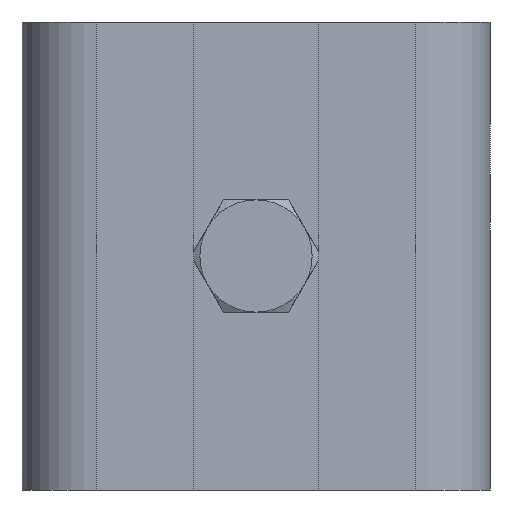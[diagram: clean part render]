
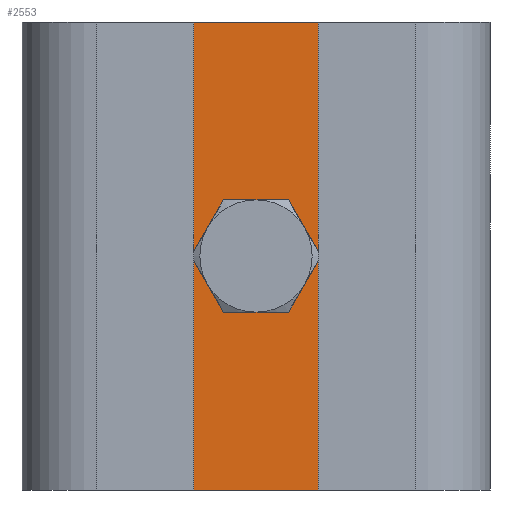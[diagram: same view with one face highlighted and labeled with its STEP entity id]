
A CAD part, front view. The second image highlights one B-rep face of the part: STEP entity #2553.
In plain terms, the highlighted planar face has unit normal (0, -1, 0).
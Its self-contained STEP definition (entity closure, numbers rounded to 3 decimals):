
#4 = FACE_BOUND ( 'NONE', #21595, .T. ) ;
#49 = ORIENTED_EDGE ( 'NONE', *, *, #17311, .T. ) ;
#102 = CARTESIAN_POINT ( 'NONE',  ( -32., -8., -100. ) ) ;
#440 = EDGE_LOOP ( 'NONE', ( #14580, #1533, #6198, #49 ) ) ;
#986 = VECTOR ( 'NONE', #3801, 1000. ) ;
#1533 = ORIENTED_EDGE ( 'NONE', *, *, #6086, .T. ) ;
#1590 = AXIS2_PLACEMENT_3D ( 'NONE', #5898, #5529, #13409 ) ;
#2553 = ADVANCED_FACE ( 'NONE', ( #4, #9368 ), #7387, .T. ) ;
#3801 = DIRECTION ( 'NONE',  ( 0., 0., -1. ) ) ;
#3883 = CARTESIAN_POINT ( 'NONE',  ( 0., -8., -58.5 ) ) ;
#4299 = VERTEX_POINT ( 'NONE', #102 ) ;
#4480 = EDGE_CURVE ( 'NONE', #12116, #7940, #6605, .T. ) ;
#5119 = CARTESIAN_POINT ( 'NONE',  ( 42., -8., 0. ) ) ;
#5277 = CARTESIAN_POINT ( 'NONE',  ( 0., -8., -50. ) ) ;
#5529 = DIRECTION ( 'NONE',  ( 0., -1., 0. ) ) ;
#5898 = CARTESIAN_POINT ( 'NONE',  ( 42., -8., -100. ) ) ;
#5927 = CARTESIAN_POINT ( 'NONE',  ( 32., -8., -100. ) ) ;
#6001 = LINE ( 'NONE', #19054, #986 ) ;
#6086 = EDGE_CURVE ( 'NONE', #7457, #7940, #10769, .T. ) ;
#6198 = ORIENTED_EDGE ( 'NONE', *, *, #4480, .F. ) ;
#6434 = DIRECTION ( 'NONE',  ( 0., 1., 0. ) ) ;
#6495 = CIRCLE ( 'NONE', #8083, 8.5 ) ;
#6605 = LINE ( 'NONE', #5119, #19092 ) ;
#7387 = PLANE ( 'NONE',  #1590 ) ;
#7457 = VERTEX_POINT ( 'NONE', #5927 ) ;
#7940 = VERTEX_POINT ( 'NONE', #8097 ) ;
#8083 = AXIS2_PLACEMENT_3D ( 'NONE', #5277, #24372, #12800 ) ;
#8097 = CARTESIAN_POINT ( 'NONE',  ( 32., -8., 0. ) ) ;
#9368 = FACE_OUTER_BOUND ( 'NONE', #440, .T. ) ;
#9587 = LINE ( 'NONE', #11796, #13678 ) ;
#10053 = AXIS2_PLACEMENT_3D ( 'NONE', #11874, #6434, #22950 ) ;
#10526 = DIRECTION ( 'NONE',  ( 0., 0., 1. ) ) ;
#10769 = LINE ( 'NONE', #12619, #10884 ) ;
#10884 = VECTOR ( 'NONE', #10526, 1000. ) ;
#11796 = CARTESIAN_POINT ( 'NONE',  ( 42., -8., -100. ) ) ;
#11874 = CARTESIAN_POINT ( 'NONE',  ( 0., -8., -50. ) ) ;
#12022 = VERTEX_POINT ( 'NONE', #3883 ) ;
#12116 = VERTEX_POINT ( 'NONE', #21823 ) ;
#12447 = CIRCLE ( 'NONE', #10053, 8.5 ) ;
#12619 = CARTESIAN_POINT ( 'NONE',  ( 32., -8., 0. ) ) ;
#12800 = DIRECTION ( 'NONE',  ( 1., 0., 0. ) ) ;
#12850 = CARTESIAN_POINT ( 'NONE',  ( 0., -8., -41.5 ) ) ;
#13409 = DIRECTION ( 'NONE',  ( 1., 0., 0. ) ) ;
#13519 = VERTEX_POINT ( 'NONE', #12850 ) ;
#13678 = VECTOR ( 'NONE', #19405, 1000. ) ;
#14580 = ORIENTED_EDGE ( 'NONE', *, *, #20657, .T. ) ;
#17206 = EDGE_CURVE ( 'NONE', #12022, #13519, #6495, .T. ) ;
#17311 = EDGE_CURVE ( 'NONE', #12116, #4299, #6001, .T. ) ;
#18438 = EDGE_CURVE ( 'NONE', #13519, #12022, #12447, .T. ) ;
#19054 = CARTESIAN_POINT ( 'NONE',  ( -32., -8., -100. ) ) ;
#19092 = VECTOR ( 'NONE', #19773, 1000. ) ;
#19405 = DIRECTION ( 'NONE',  ( 1., 0., 0. ) ) ;
#19773 = DIRECTION ( 'NONE',  ( 1., 0., 0. ) ) ;
#20083 = ORIENTED_EDGE ( 'NONE', *, *, #17206, .T. ) ;
#20239 = ORIENTED_EDGE ( 'NONE', *, *, #18438, .T. ) ;
#20657 = EDGE_CURVE ( 'NONE', #4299, #7457, #9587, .T. ) ;
#21595 = EDGE_LOOP ( 'NONE', ( #20239, #20083 ) ) ;
#21823 = CARTESIAN_POINT ( 'NONE',  ( -32., -8., 0. ) ) ;
#22950 = DIRECTION ( 'NONE',  ( 1., 0., 0. ) ) ;
#24372 = DIRECTION ( 'NONE',  ( 0., 1., 0. ) ) ;
